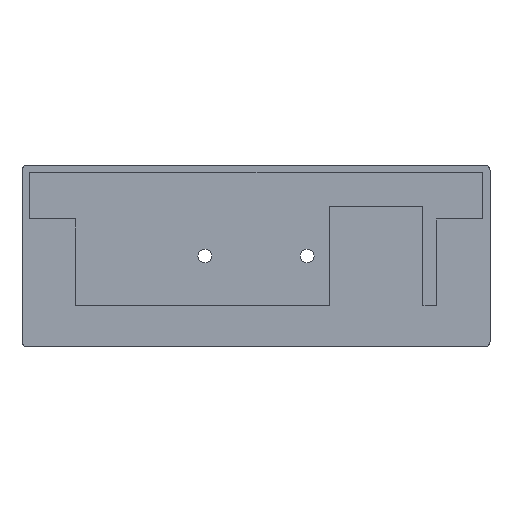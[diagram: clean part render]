
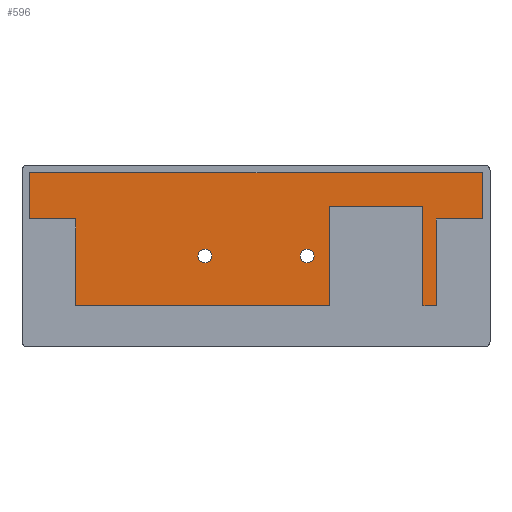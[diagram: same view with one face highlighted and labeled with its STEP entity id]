
A CAD part, top view. The second image highlights one B-rep face of the part: STEP entity #596.
In plain terms, the highlighted planar face has unit normal (0, 0, 1).
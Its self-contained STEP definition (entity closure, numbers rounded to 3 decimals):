
#2 = CARTESIAN_POINT ( 'NONE',  ( -28.088, -3.777, 2. ) ) ;
#4 = VERTEX_POINT ( 'NONE', #495 ) ;
#6 = VERTEX_POINT ( 'NONE', #751 ) ;
#9 = CIRCLE ( 'NONE', #80, 2.7 ) ;
#19 = VERTEX_POINT ( 'NONE', #772 ) ;
#26 = LINE ( 'NONE', #279, #793 ) ;
#30 = EDGE_CURVE ( 'NONE', #705, #197, #26, .T. ) ;
#31 = FACE_BOUND ( 'NONE', #513, .T. ) ;
#40 = LINE ( 'NONE', #375, #349 ) ;
#61 = EDGE_CURVE ( 'NONE', #182, #781, #685, .T. ) ;
#79 = DIRECTION ( 'NONE',  ( 1., 0., 0. ) ) ;
#80 = AXIS2_PLACEMENT_3D ( 'NONE', #879, #126, #135 ) ;
#82 = DIRECTION ( 'NONE',  ( 1., 0., 0. ) ) ;
#87 = LINE ( 'NONE', #626, #360 ) ;
#89 = DIRECTION ( 'NONE',  ( 0., 0., -1. ) ) ;
#97 = EDGE_CURVE ( 'NONE', #411, #705, #87, .T. ) ;
#103 = CARTESIAN_POINT ( 'NONE',  ( 20.825, -23.277, 2. ) ) ;
#126 = DIRECTION ( 'NONE',  ( 0., 0., -1. ) ) ;
#130 = EDGE_CURVE ( 'NONE', #690, #593, #507, .T. ) ;
#132 = CARTESIAN_POINT ( 'NONE',  ( -96.588, 10.723, 2. ) ) ;
#135 = DIRECTION ( 'NONE',  ( -1., 0., 0. ) ) ;
#136 = VERTEX_POINT ( 'NONE', #167 ) ;
#141 = DIRECTION ( 'NONE',  ( 1., 0., 0. ) ) ;
#145 = EDGE_CURVE ( 'NONE', #614, #862, #864, .T. ) ;
#160 = PLANE ( 'NONE',  #430 ) ;
#162 = VECTOR ( 'NONE', #478, 1000. ) ;
#165 = ORIENTED_EDGE ( 'NONE', *, *, #356, .T. ) ;
#167 = CARTESIAN_POINT ( 'NONE',  ( 62.412, -23.277, 2. ) ) ;
#172 = DIRECTION ( 'NONE',  ( 1., 0., 0. ) ) ;
#176 = CARTESIAN_POINT ( 'NONE',  ( 14.612, -3.777, 2. ) ) ;
#178 = EDGE_CURVE ( 'NONE', #197, #739, #515, .T. ) ;
#182 = VERTEX_POINT ( 'NONE', #314 ) ;
#197 = VERTEX_POINT ( 'NONE', #787 ) ;
#205 = CIRCLE ( 'NONE', #491, 2.7 ) ;
#210 = CARTESIAN_POINT ( 'NONE',  ( -78.588, -23.277, 2. ) ) ;
#222 = VECTOR ( 'NONE', #264, 1000. ) ;
#225 = ORIENTED_EDGE ( 'NONE', *, *, #61, .T. ) ;
#228 = CARTESIAN_POINT ( 'NONE',  ( -28.088, -3.777, 2. ) ) ;
#236 = CARTESIAN_POINT ( 'NONE',  ( 0., 0., 2. ) ) ;
#246 = DIRECTION ( 'NONE',  ( 1., 0., 0. ) ) ;
#249 = FACE_OUTER_BOUND ( 'NONE', #774, .T. ) ;
#251 = CARTESIAN_POINT ( 'NONE',  ( 80.412, 28.723, 2. ) ) ;
#257 = DIRECTION ( 'NONE',  ( 0., 1., 0. ) ) ;
#264 = DIRECTION ( 'NONE',  ( 0., -1., 0. ) ) ;
#273 = EDGE_CURVE ( 'NONE', #136, #411, #386, .T. ) ;
#279 = CARTESIAN_POINT ( 'NONE',  ( 80.412, 10.688, 2. ) ) ;
#283 = DIRECTION ( 'NONE',  ( -1., 0., 0. ) ) ;
#289 = VERTEX_POINT ( 'NONE', #881 ) ;
#300 = CIRCLE ( 'NONE', #880, 2.7 ) ;
#302 = DIRECTION ( 'NONE',  ( 0., 0., -1. ) ) ;
#311 = VECTOR ( 'NONE', #172, 1000. ) ;
#314 = CARTESIAN_POINT ( 'NONE',  ( 20.825, -23.277, 2. ) ) ;
#330 = ORIENTED_EDGE ( 'NONE', *, *, #145, .T. ) ;
#335 = VECTOR ( 'NONE', #782, 1000. ) ;
#348 = CARTESIAN_POINT ( 'NONE',  ( 20.825, 15.723, 2. ) ) ;
#349 = VECTOR ( 'NONE', #246, 1000. ) ;
#353 = CARTESIAN_POINT ( 'NONE',  ( 57.2, -23.277, 2. ) ) ;
#356 = EDGE_CURVE ( 'NONE', #593, #690, #9, .T. ) ;
#358 = LINE ( 'NONE', #420, #718 ) ;
#360 = VECTOR ( 'NONE', #82, 1000. ) ;
#365 = ORIENTED_EDGE ( 'NONE', *, *, #422, .T. ) ;
#372 = DIRECTION ( 'NONE',  ( -1., 0., 0. ) ) ;
#374 = VECTOR ( 'NONE', #141, 1000. ) ;
#375 = CARTESIAN_POINT ( 'NONE',  ( 57.2, 15.723, 2. ) ) ;
#380 = EDGE_CURVE ( 'NONE', #19, #418, #538, .T. ) ;
#384 = ORIENTED_EDGE ( 'NONE', *, *, #178, .T. ) ;
#386 = LINE ( 'NONE', #666, #459 ) ;
#394 = ORIENTED_EDGE ( 'NONE', *, *, #380, .T. ) ;
#398 = DIRECTION ( 'NONE',  ( -1., 0., 0. ) ) ;
#399 = CARTESIAN_POINT ( 'NONE',  ( 62.411, 10.687, 2. ) ) ;
#411 = VERTEX_POINT ( 'NONE', #399 ) ;
#415 = DIRECTION ( 'NONE',  ( 0., -1., 0. ) ) ;
#416 = EDGE_CURVE ( 'NONE', #4, #289, #205, .T. ) ;
#417 = CARTESIAN_POINT ( 'NONE',  ( 20.825, -23.277, 2. ) ) ;
#418 = VERTEX_POINT ( 'NONE', #210 ) ;
#420 = CARTESIAN_POINT ( 'NONE',  ( 62.412, -23.277, 2. ) ) ;
#422 = EDGE_CURVE ( 'NONE', #739, #6, #552, .T. ) ;
#430 = AXIS2_PLACEMENT_3D ( 'NONE', #236, #302, #579 ) ;
#433 = EDGE_CURVE ( 'NONE', #862, #136, #358, .T. ) ;
#434 = ORIENTED_EDGE ( 'NONE', *, *, #789, .T. ) ;
#452 = CARTESIAN_POINT ( 'NONE',  ( 80.412, 10.688, 2. ) ) ;
#459 = VECTOR ( 'NONE', #257, 1000. ) ;
#478 = DIRECTION ( 'NONE',  ( 0., 1., 0. ) ) ;
#488 = EDGE_LOOP ( 'NONE', ( #832, #804 ) ) ;
#491 = AXIS2_PLACEMENT_3D ( 'NONE', #228, #676, #283 ) ;
#495 = CARTESIAN_POINT ( 'NONE',  ( -25.388, -3.777, 2. ) ) ;
#507 = CIRCLE ( 'NONE', #670, 2.7 ) ;
#513 = EDGE_LOOP ( 'NONE', ( #165, #713 ) ) ;
#515 = LINE ( 'NONE', #251, #732 ) ;
#520 = DIRECTION ( 'NONE',  ( 0., 0., -1. ) ) ;
#538 = LINE ( 'NONE', #803, #222 ) ;
#539 = ORIENTED_EDGE ( 'NONE', *, *, #30, .T. ) ;
#552 = LINE ( 'NONE', #684, #619 ) ;
#562 = ORIENTED_EDGE ( 'NONE', *, *, #639, .T. ) ;
#579 = DIRECTION ( 'NONE',  ( -1., 0., 0. ) ) ;
#593 = VERTEX_POINT ( 'NONE', #700 ) ;
#596 = ADVANCED_FACE ( 'NONE', ( #31, #711, #249 ), #160, .F. ) ;
#601 = EDGE_CURVE ( 'NONE', #418, #182, #714, .T. ) ;
#614 = VERTEX_POINT ( 'NONE', #848 ) ;
#617 = DIRECTION ( 'NONE',  ( 0., 1., 0. ) ) ;
#619 = VECTOR ( 'NONE', #415, 1000. ) ;
#626 = CARTESIAN_POINT ( 'NONE',  ( 62.411, 10.687, 2. ) ) ;
#639 = EDGE_CURVE ( 'NONE', #781, #614, #40, .T. ) ;
#651 = CARTESIAN_POINT ( 'NONE',  ( 57.2, 15.723, 2. ) ) ;
#666 = CARTESIAN_POINT ( 'NONE',  ( 62.412, -23.277, 2. ) ) ;
#670 = AXIS2_PLACEMENT_3D ( 'NONE', #796, #520, #716 ) ;
#676 = DIRECTION ( 'NONE',  ( 0., 0., -1. ) ) ;
#684 = CARTESIAN_POINT ( 'NONE',  ( -96.588, 10.723, 2. ) ) ;
#685 = LINE ( 'NONE', #417, #162 ) ;
#690 = VERTEX_POINT ( 'NONE', #176 ) ;
#700 = CARTESIAN_POINT ( 'NONE',  ( 9.212, -3.777, 2. ) ) ;
#705 = VERTEX_POINT ( 'NONE', #452 ) ;
#711 = FACE_BOUND ( 'NONE', #488, .T. ) ;
#713 = ORIENTED_EDGE ( 'NONE', *, *, #130, .T. ) ;
#714 = LINE ( 'NONE', #103, #311 ) ;
#716 = DIRECTION ( 'NONE',  ( -1., 0., 0. ) ) ;
#718 = VECTOR ( 'NONE', #79, 1000. ) ;
#732 = VECTOR ( 'NONE', #372, 1000. ) ;
#739 = VERTEX_POINT ( 'NONE', #806 ) ;
#751 = CARTESIAN_POINT ( 'NONE',  ( -96.588, 10.723, 2. ) ) ;
#772 = CARTESIAN_POINT ( 'NONE',  ( -78.589, 10.724, 2. ) ) ;
#774 = EDGE_LOOP ( 'NONE', ( #801, #539, #384, #365, #434, #394, #851, #225, #562, #330, #819, #867 ) ) ;
#781 = VERTEX_POINT ( 'NONE', #348 ) ;
#782 = DIRECTION ( 'NONE',  ( 0., -1., 0. ) ) ;
#787 = CARTESIAN_POINT ( 'NONE',  ( 80.412, 28.723, 2. ) ) ;
#789 = EDGE_CURVE ( 'NONE', #6, #19, #815, .T. ) ;
#793 = VECTOR ( 'NONE', #617, 1000. ) ;
#796 = CARTESIAN_POINT ( 'NONE',  ( 11.912, -3.777, 2. ) ) ;
#801 = ORIENTED_EDGE ( 'NONE', *, *, #97, .T. ) ;
#803 = CARTESIAN_POINT ( 'NONE',  ( -78.589, 10.724, 2. ) ) ;
#804 = ORIENTED_EDGE ( 'NONE', *, *, #416, .T. ) ;
#806 = CARTESIAN_POINT ( 'NONE',  ( -96.588, 28.723, 2. ) ) ;
#815 = LINE ( 'NONE', #132, #374 ) ;
#819 = ORIENTED_EDGE ( 'NONE', *, *, #433, .T. ) ;
#832 = ORIENTED_EDGE ( 'NONE', *, *, #837, .T. ) ;
#837 = EDGE_CURVE ( 'NONE', #289, #4, #300, .T. ) ;
#848 = CARTESIAN_POINT ( 'NONE',  ( 57.2, 15.723, 2. ) ) ;
#851 = ORIENTED_EDGE ( 'NONE', *, *, #601, .T. ) ;
#862 = VERTEX_POINT ( 'NONE', #353 ) ;
#864 = LINE ( 'NONE', #651, #335 ) ;
#867 = ORIENTED_EDGE ( 'NONE', *, *, #273, .T. ) ;
#879 = CARTESIAN_POINT ( 'NONE',  ( 11.912, -3.777, 2. ) ) ;
#880 = AXIS2_PLACEMENT_3D ( 'NONE', #2, #89, #398 ) ;
#881 = CARTESIAN_POINT ( 'NONE',  ( -30.788, -3.777, 2. ) ) ;
